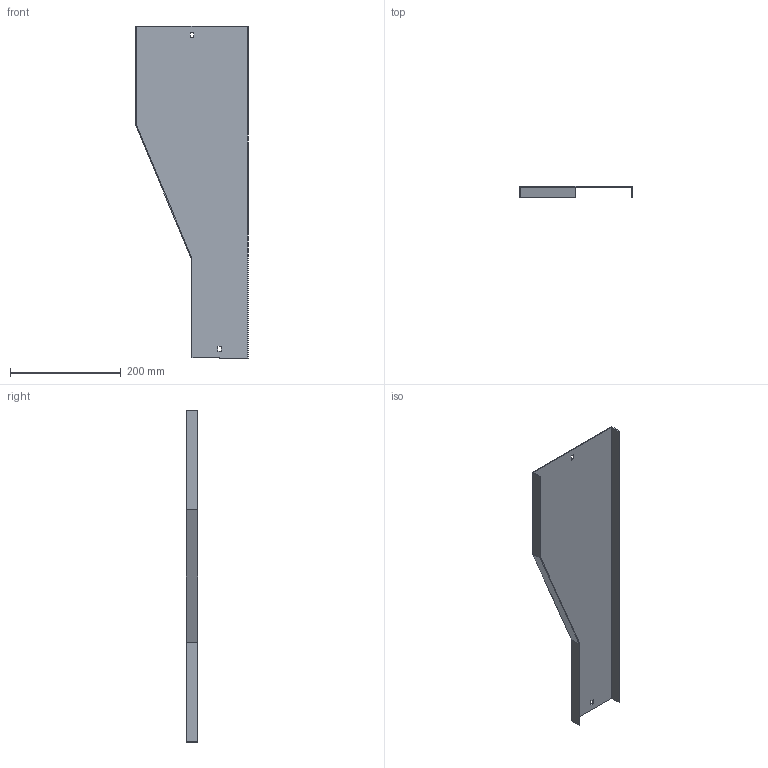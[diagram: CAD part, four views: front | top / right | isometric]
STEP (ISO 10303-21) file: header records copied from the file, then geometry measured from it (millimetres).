
FILE_DESCRIPTION (( 'STEP AP214' ), '1' );
FILE_NAME ('B2X21N1R200X.step', '2025-09-02T15:44:30', ( '' ), ( '' ), 'SwSTEP 2.0', 'SolidWorks 2023', '' );
FILE_SCHEMA (( 'AUTOMOTIVE_DESIGN' ));
Length unit declared in the file: millimetre
Products named in the file (1): B2X21N1R200X
Bounding box: 203 x 20 x 600 mm (x, y, z)
Volume: 171379.5 mm3; surface area: 230999 mm2
Topology: 1 solids, 1 shells, 22 faces, 60 edges, 40 vertices
Faces by surface type: plane 22
Entity records: 715 total; most frequent: CARTESIAN_POINT 123, ORIENTED_EDGE 120, DIRECTION 106, LINE 60, VECTOR 60, EDGE_CURVE 60, VERTEX_POINT 40, EDGE_LOOP 26
